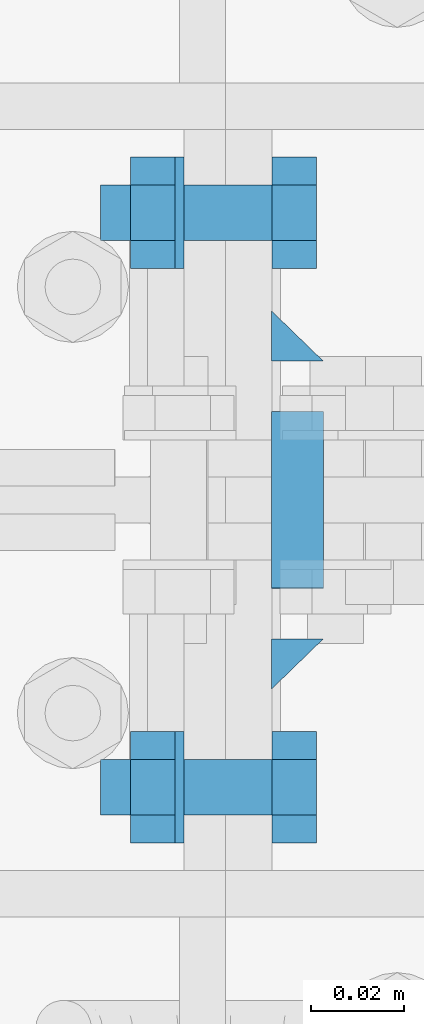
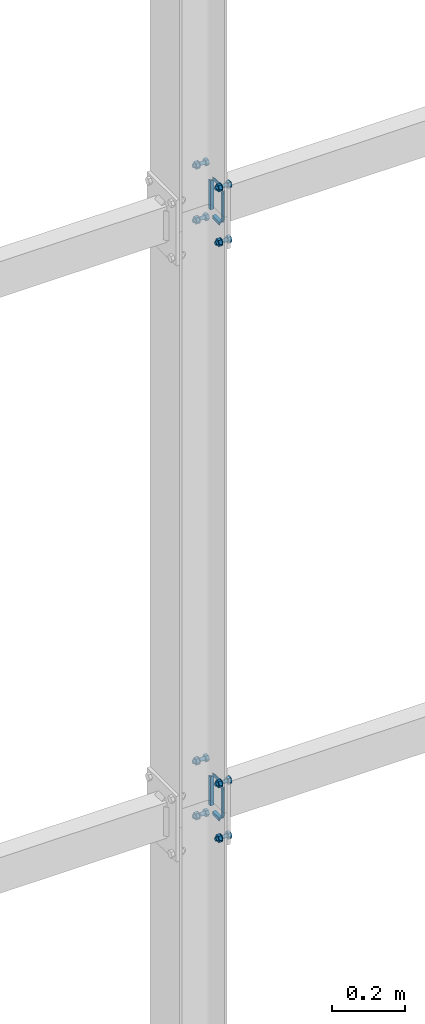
# One storey, part 201 of 251: 32 mechanical fasteners, 16 fasteners.
"""IFC4 building model written with IfcOpenShell, lengths in metres."""

from ifc_helpers import new_model, si_unit, frame, origin_with_axes, place, context, project, spatial, polyline, outline, extrude, type_object, element, save


model = new_model("IFC4")

# Units and contexts
model_context = context("Model", 3, precision=1e-05, world=origin_with_axes())
ifc_project = project(units=[si_unit("LENGTHUNIT", "METRE"), si_unit("AREAUNIT", "SQUARE_METRE"), si_unit("VOLUMEUNIT", "CUBIC_METRE"), si_unit("MASSUNIT", "GRAM", prefix="KILO"), si_unit("TIMEUNIT", "SECOND"), si_unit("PLANEANGLEUNIT", "RADIAN"), si_unit("SOLIDANGLEUNIT", "STERADIAN"), si_unit("THERMODYNAMICTEMPERATUREUNIT", "DEGREE_CELSIUS")], contexts=[model_context])

# Site, building, storey
placement_1 = place(None, origin_with_axes())
site = spatial("IfcSite", under=ifc_project, at=placement_1, Name="Italia", CompositionType="ELEMENT")
building = spatial("IfcBuilding", under=site, at=placement_1, Name="Deposito", CompositionType="ELEMENT")
storey = spatial("IfcBuildingStorey", under=building, at=placement_1, Name="Storey 0", CompositionType="ELEMENT", Elevation=0.0)

# Fasteners
fastener_type_1 = type_object("IfcFastenerType", Name="Collegamenti -006_-005 -006_-007 -007_-006 -007_-008 -014_-013 -014_-015 -015_-014 -015_-016", PredefinedType="WELD")
placement_2 = place(placement_1, origin_with_axes())
fastener_1_placement = place(placement_2, origin_with_axes())
element("IfcFastener", 1, at=fastener_1_placement, inside=storey, type_object=fastener_type_1, Name="Collegamenti -006_-005 -006_-007 -007_-006 -007_-008 -014_-013 -014_-015 -015_-014 -015_-016", context=model_context, shape_type="SweptSolid", body=[
    extrude(outline(polyline([(0.0, 0.0), (0.0111732, -0.0108382), (0.0, -0.0108382), (0.0, 0.0)])), frame((11.0009, 20.0191, 1.07079), z_axis=(0.0, -1.0, 0.0), x_axis=(1.0, 0.0, 0.0)), (0.0, 0.0, 1.0), 0.0381012),
])
fastener_type_2 = type_object("IfcFastenerType", Name="Collegamenti -006_-005 -006_-007 -007_-006 -007_-008 -014_-013 -014_-015 -015_-014 -015_-016", PredefinedType="WELD")
fastener_2_placement = place(placement_2, origin_with_axes())
element("IfcFastener", 2, at=fastener_2_placement, inside=storey, type_object=fastener_type_2, Name="Collegamenti -006_-005 -006_-007 -007_-006 -007_-008 -014_-013 -014_-015 -015_-014 -015_-016", context=model_context, shape_type="SweptSolid", body=[
    extrude(outline(polyline([(0.0, 0.0), (0.0108376, 0.0111732), (0.0108376, 0.0), (0.0, 0.0)])), frame((11.0009, 19.9592, 1.04905), z_axis=(0.0, 0.0, -1.0), x_axis=(0.0, 1.0, 0.0)), (0.0, 0.0, 1.0), 0.0980999),
])
fastener_type_3 = type_object("IfcFastenerType", Name="Collegamenti -006_-005 -006_-007 -007_-006 -007_-008 -014_-013 -014_-015 -015_-014 -015_-016", PredefinedType="WELD")
fastener_3_placement = place(placement_2, origin_with_axes())
element("IfcFastener", 3, at=fastener_3_placement, inside=storey, type_object=fastener_type_3, Name="Collegamenti -006_-005 -006_-007 -007_-006 -007_-008 -014_-013 -014_-015 -015_-014 -015_-016", context=model_context, shape_type="SweptSolid", body=[
    extrude(outline(polyline([(0.0, 0.0), (-0.0108376, -0.0111732), (-0.0108376, 0.0), (0.0, 0.0)])), frame((11.0009, 20.0408, 0.95095), z_axis=(0.0, 0.0, 1.0), x_axis=(0.0, 1.0, 0.0)), (0.0, 0.0, 1.0), 0.0980999),
])
fastener_type_4 = type_object("IfcFastenerType", Name="Collegamenti -006_-005 -006_-007 -007_-006 -007_-008 -014_-013 -014_-015 -015_-014 -015_-016", PredefinedType="WELD")
fastener_4_placement = place(placement_2, origin_with_axes())
element("IfcFastener", 4, at=fastener_4_placement, inside=storey, type_object=fastener_type_4, Name="Collegamenti -006_-005 -006_-007 -007_-006 -007_-008 -014_-013 -014_-015 -015_-014 -015_-016", context=model_context, shape_type="SweptSolid", body=[
    extrude(outline(polyline([(0.0, 0.0), (-0.0111732, 0.0108382), (0.0, 0.0108382), (0.0, 0.0)])), frame((11.0009, 19.9809, 0.929212), z_axis=(0.0, 1.0, 0.0), x_axis=(-1.0, 0.0, 0.0)), (0.0, 0.0, 1.0), 0.0381012),
])
fastener_type_5 = type_object("IfcFastenerType", Name="Collegamenti -006_-005 -006_-007 -007_-006 -007_-008 -014_-013 -014_-015 -015_-014 -015_-016", PredefinedType="WELD")
fastener_5_placement = place(placement_2, origin_with_axes())
element("IfcFastener", 5, at=fastener_5_placement, inside=storey, type_object=fastener_type_5, Name="Collegamenti -006_-005 -006_-007 -007_-006 -007_-008 -014_-013 -014_-015 -015_-014 -015_-016", context=model_context, shape_type="SweptSolid", body=[
    extrude(outline(polyline([(0.0, 0.0), (0.0111732, -0.0108382), (0.0, -0.0108382), (0.0, 0.0)])), frame((11.0009, 20.0191, 1.07079), z_axis=(0.0, -1.0, 0.0), x_axis=(1.0, 0.0, 0.0)), (0.0, 0.0, 1.0), 0.0381012),
])
fastener_type_6 = type_object("IfcFastenerType", Name="Collegamenti -006_-005 -006_-007 -007_-006 -007_-008 -014_-013 -014_-015 -015_-014 -015_-016", PredefinedType="WELD")
fastener_6_placement = place(placement_2, origin_with_axes())
element("IfcFastener", 6, at=fastener_6_placement, inside=storey, type_object=fastener_type_6, Name="Collegamenti -006_-005 -006_-007 -007_-006 -007_-008 -014_-013 -014_-015 -015_-014 -015_-016", context=model_context, shape_type="SweptSolid", body=[
    extrude(outline(polyline([(0.0, 0.0), (0.0108376, 0.0111732), (0.0108376, 0.0), (0.0, 0.0)])), frame((11.0009, 19.9592, 1.04905), z_axis=(0.0, 0.0, -1.0), x_axis=(0.0, 1.0, 0.0)), (0.0, 0.0, 1.0), 0.0980999),
])
fastener_type_7 = type_object("IfcFastenerType", Name="Collegamenti -006_-005 -006_-007 -007_-006 -007_-008 -014_-013 -014_-015 -015_-014 -015_-016", PredefinedType="WELD")
fastener_7_placement = place(placement_2, origin_with_axes())
element("IfcFastener", 7, at=fastener_7_placement, inside=storey, type_object=fastener_type_7, Name="Collegamenti -006_-005 -006_-007 -007_-006 -007_-008 -014_-013 -014_-015 -015_-014 -015_-016", context=model_context, shape_type="SweptSolid", body=[
    extrude(outline(polyline([(0.0, 0.0), (-0.0108376, -0.0111732), (-0.0108376, 0.0), (0.0, 0.0)])), frame((11.0009, 20.0408, 0.95095), z_axis=(0.0, 0.0, 1.0), x_axis=(0.0, 1.0, 0.0)), (0.0, 0.0, 1.0), 0.0980999),
])
fastener_type_8 = type_object("IfcFastenerType", Name="Collegamenti -006_-005 -006_-007 -007_-006 -007_-008 -014_-013 -014_-015 -015_-014 -015_-016", PredefinedType="WELD")
fastener_8_placement = place(placement_2, origin_with_axes())
element("IfcFastener", 8, at=fastener_8_placement, inside=storey, type_object=fastener_type_8, Name="Collegamenti -006_-005 -006_-007 -007_-006 -007_-008 -014_-013 -014_-015 -015_-014 -015_-016", context=model_context, shape_type="SweptSolid", body=[
    extrude(outline(polyline([(0.0, 0.0), (-0.0111732, 0.0108382), (0.0, 0.0108382), (0.0, 0.0)])), frame((11.0009, 19.9809, 0.929212), z_axis=(0.0, 1.0, 0.0), x_axis=(-1.0, 0.0, 0.0)), (0.0, 0.0, 1.0), 0.0381012),
])

# Mechanical fasteners
mechanical_fastener_type_1 = type_object("IfcMechanicalFastenerType", Name="Collegamenti -006_-005 -006_-007 -007_-006 -007_-008 -014_-013 -014_-015 -015_-014 -015_-016", PredefinedType="BOLT")
mechanical_fastener_1_placement = place(placement_2, origin_with_axes())
element("IfcMechanicalFastener", 9, at=mechanical_fastener_1_placement, inside=storey, type_object=mechanical_fastener_type_1, Name="Collegamenti -006_-005 -006_-007 -007_-006 -007_-008 -014_-013 -014_-015 -015_-014 -015_-016", NominalDiameter=0.0119993, context=model_context, shape_type="SweptSolid", body=[
    extrude(outline(polyline([(0.0, 0.0), (-0.012001, 0.0), (-0.0179996, 0.0103923), (-0.012001, 0.0207846), (0.0, 0.0207846), (0.00600052, 0.0103923), (0.0, 0.0)])), frame((11.001, 19.944, 0.897608), z_axis=(1.0, 0.0, 0.0), x_axis=(0.0, 1.0, 0.0)), (0.0, 0.0, 1.0), 0.00959969),
])
mechanical_fastener_type_2 = type_object("IfcMechanicalFastenerType", Name="Collegamenti -006_-005 -006_-007 -007_-006 -007_-008 -014_-013 -014_-015 -015_-014 -015_-016", PredefinedType="BOLT")
mechanical_fastener_2_placement = place(placement_2, origin_with_axes())
element("IfcMechanicalFastener", 10, at=mechanical_fastener_2_placement, inside=storey, type_object=mechanical_fastener_type_2, Name="Collegamenti -006_-005 -006_-007 -007_-006 -007_-008 -014_-013 -014_-015 -015_-014 -015_-016", NominalDiameter=0.012, context=model_context, shape_type="SweptSolid", body=[
    extrude(outline(polyline([(0.0, 0.0), (-0.000204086, -0.00155294), (-0.000804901, -0.00300002), (-0.00175858, -0.00424266), (-0.00300026, -0.00519615), (-0.00444794, -0.00579554), (-0.00600052, -0.00599998), (-0.0075531, -0.00579554), (-0.00900078, -0.00519615), (-0.0102425, -0.00424266), (-0.0111961, -0.00300002), (-0.011797, -0.00155294), (-0.012001, 0.0), (-0.011797, 0.00155294), (-0.0111961, 0.00300002), (-0.0102425, 0.00424266), (-0.00900078, 0.00519615), (-0.0075531, 0.00579554), (-0.00600052, 0.00599998), (-0.00444794, 0.00579554), (-0.00300026, 0.00519615), (-0.00175858, 0.00424266), (-0.000804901, 0.00300002), (-0.000204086, 0.00155294), (0.0, 0.0)])), frame((10.964, 19.944, 0.908), z_axis=(1.0, 0.0, 0.0), x_axis=(0.0, 1.0, 0.0)), (0.0, 0.0, 1.0), 0.0370007),
])
mechanical_fastener_type_3 = type_object("IfcMechanicalFastenerType", Name="Collegamenti -006_-005 -006_-007 -007_-006 -007_-008 -014_-013 -014_-015 -015_-014 -015_-016", PredefinedType="BOLT")
mechanical_fastener_3_placement = place(placement_2, origin_with_axes())
element("IfcMechanicalFastener", 11, at=mechanical_fastener_3_placement, inside=storey, type_object=mechanical_fastener_type_3, Name="Collegamenti -006_-005 -006_-007 -007_-006 -007_-008 -014_-013 -014_-015 -015_-014 -015_-016", NominalDiameter=0.0119993, context=model_context, shape_type="SweptSolid", body=[
    extrude(outline(polyline([(0.0, 0.0), (-0.012001, 0.0), (-0.0179996, 0.0103923), (-0.012001, 0.0207846), (0.0, 0.0207846), (0.00600052, 0.0103923), (0.0, 0.0)])), frame((10.9704, 19.944, 0.897608), z_axis=(1.0, 0.0, 0.0), x_axis=(0.0, 1.0, 0.0)), (0.0, 0.0, 1.0), 0.00960064),
])
mechanical_fastener_type_4 = type_object("IfcMechanicalFastenerType", Name="Collegamenti -006_-005 -006_-007 -007_-006 -007_-008 -014_-013 -014_-015 -015_-014 -015_-016", PredefinedType="BOLT")
mechanical_fastener_4_placement = place(placement_2, origin_with_axes())
element("IfcMechanicalFastener", 12, at=mechanical_fastener_4_placement, inside=storey, type_object=mechanical_fastener_type_4, Name="Collegamenti -006_-005 -006_-007 -007_-006 -007_-008 -014_-013 -014_-015 -015_-014 -015_-016", NominalDiameter=0.024, context=model_context, shape_type="SweptSolid", body=[
    extrude(outline(polyline([(0.0, 0.0), (-0.000408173, -0.00310582), (-0.00160599, -0.00599998), (-0.00351334, -0.00848526), (-0.00599861, -0.0103923), (-0.00889397, -0.0115911), (-0.0119991, -0.012), (-0.0151043, -0.0115911), (-0.0179996, -0.0103923), (-0.0204849, -0.00848526), (-0.0223923, -0.00599998), (-0.0235901, -0.00310582), (-0.0239983, 0.0), (-0.0235901, 0.00310582), (-0.0223923, 0.00599998), (-0.0204849, 0.00848526), (-0.0179996, 0.0103923), (-0.0151043, 0.0115911), (-0.0119991, 0.012), (-0.00889397, 0.0115911), (-0.00599861, 0.0103923), (-0.00351334, 0.00848526), (-0.00160599, 0.00599998), (-0.000408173, 0.00310582), (0.0, 0.0)])), frame((10.98, 19.95, 0.908), z_axis=(1.0, 0.0, 0.0), x_axis=(0.0, 1.0, 0.0)), (0.0, 0.0, 1.0), 0.00199986),
])
mechanical_fastener_type_5 = type_object("IfcMechanicalFastenerType", Name="Collegamenti -006_-005 -006_-007 -007_-006 -007_-008 -014_-013 -014_-015 -015_-014 -015_-016", PredefinedType="BOLT")
mechanical_fastener_5_placement = place(placement_2, origin_with_axes())
element("IfcMechanicalFastener", 13, at=mechanical_fastener_5_placement, inside=storey, type_object=mechanical_fastener_type_5, Name="Collegamenti -006_-005 -006_-007 -007_-006 -007_-008 -014_-013 -014_-015 -015_-014 -015_-016", NominalDiameter=0.0119993, context=model_context, shape_type="SweptSolid", body=[
    extrude(outline(polyline([(0.0, 0.0), (-0.012001, 0.0), (-0.0180016, 0.0103923), (-0.012001, 0.0207846), (0.0, 0.0207846), (0.00599861, 0.0103923), (0.0, 0.0)])), frame((11.001, 20.068, 0.897608), z_axis=(1.0, 0.0, 0.0), x_axis=(0.0, 1.0, 0.0)), (0.0, 0.0, 1.0), 0.00959969),
])
mechanical_fastener_type_6 = type_object("IfcMechanicalFastenerType", Name="Collegamenti -006_-005 -006_-007 -007_-006 -007_-008 -014_-013 -014_-015 -015_-014 -015_-016", PredefinedType="BOLT")
mechanical_fastener_6_placement = place(placement_2, origin_with_axes())
element("IfcMechanicalFastener", 14, at=mechanical_fastener_6_placement, inside=storey, type_object=mechanical_fastener_type_6, Name="Collegamenti -006_-005 -006_-007 -007_-006 -007_-008 -014_-013 -014_-015 -015_-014 -015_-016", NominalDiameter=0.012, context=model_context, shape_type="SweptSolid", body=[
    extrude(outline(polyline([(0.0, 0.0), (-0.000204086, -0.00155294), (-0.000804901, -0.00300002), (-0.00175858, -0.00424266), (-0.00300026, -0.00519615), (-0.00444794, -0.00579554), (-0.00600052, -0.00599998), (-0.0075531, -0.00579554), (-0.00900078, -0.00519615), (-0.0102425, -0.00424266), (-0.0111961, -0.00300002), (-0.011797, -0.00155294), (-0.012001, 0.0), (-0.011797, 0.00155294), (-0.0111961, 0.00300002), (-0.0102425, 0.00424266), (-0.00900078, 0.00519615), (-0.0075531, 0.00579554), (-0.00600052, 0.00599998), (-0.00444794, 0.00579554), (-0.00300026, 0.00519615), (-0.00175858, 0.00424266), (-0.000804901, 0.00300002), (-0.000204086, 0.00155294), (0.0, 0.0)])), frame((10.964, 20.068, 0.908), z_axis=(1.0, 0.0, 0.0), x_axis=(0.0, 1.0, 0.0)), (0.0, 0.0, 1.0), 0.0370007),
])
mechanical_fastener_type_7 = type_object("IfcMechanicalFastenerType", Name="Collegamenti -006_-005 -006_-007 -007_-006 -007_-008 -014_-013 -014_-015 -015_-014 -015_-016", PredefinedType="BOLT")
mechanical_fastener_7_placement = place(placement_2, origin_with_axes())
element("IfcMechanicalFastener", 15, at=mechanical_fastener_7_placement, inside=storey, type_object=mechanical_fastener_type_7, Name="Collegamenti -006_-005 -006_-007 -007_-006 -007_-008 -014_-013 -014_-015 -015_-014 -015_-016", NominalDiameter=0.0119993, context=model_context, shape_type="SweptSolid", body=[
    extrude(outline(polyline([(0.0, 0.0), (-0.012001, 0.0), (-0.0180016, 0.0103923), (-0.012001, 0.0207846), (0.0, 0.0207846), (0.00599861, 0.0103923), (0.0, 0.0)])), frame((10.9704, 20.068, 0.897608), z_axis=(1.0, 0.0, 0.0), x_axis=(0.0, 1.0, 0.0)), (0.0, 0.0, 1.0), 0.00960064),
])
mechanical_fastener_type_8 = type_object("IfcMechanicalFastenerType", Name="Collegamenti -006_-005 -006_-007 -007_-006 -007_-008 -014_-013 -014_-015 -015_-014 -015_-016", PredefinedType="BOLT")
mechanical_fastener_8_placement = place(placement_2, origin_with_axes())
element("IfcMechanicalFastener", 16, at=mechanical_fastener_8_placement, inside=storey, type_object=mechanical_fastener_type_8, Name="Collegamenti -006_-005 -006_-007 -007_-006 -007_-008 -014_-013 -014_-015 -015_-014 -015_-016", NominalDiameter=0.024, context=model_context, shape_type="SweptSolid", body=[
    extrude(outline(polyline([(0.0, 0.0), (-0.000408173, -0.00310582), (-0.00160599, -0.00599998), (-0.00351334, -0.00848526), (-0.00599861, -0.0103923), (-0.00889397, -0.0115911), (-0.0119991, -0.012), (-0.0151043, -0.0115911), (-0.0179996, -0.0103923), (-0.0204849, -0.00848526), (-0.0223923, -0.00599998), (-0.0235901, -0.00310582), (-0.0239983, 0.0), (-0.0235901, 0.00310582), (-0.0223923, 0.00599998), (-0.0204849, 0.00848526), (-0.0179996, 0.0103923), (-0.0151043, 0.0115911), (-0.0119991, 0.012), (-0.00889397, 0.0115911), (-0.00599861, 0.0103923), (-0.00351334, 0.00848526), (-0.00160599, 0.00599998), (-0.000408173, 0.00310582), (0.0, 0.0)])), frame((10.98, 20.074, 0.908), z_axis=(1.0, 0.0, 0.0), x_axis=(0.0, 1.0, 0.0)), (0.0, 0.0, 1.0), 0.00199986),
])
mechanical_fastener_type_9 = type_object("IfcMechanicalFastenerType", Name="Collegamenti -006_-005 -006_-007 -007_-006 -007_-008 -014_-013 -014_-015 -015_-014 -015_-016", PredefinedType="BOLT")
mechanical_fastener_9_placement = place(placement_2, origin_with_axes())
element("IfcMechanicalFastener", 17, at=mechanical_fastener_9_placement, inside=storey, type_object=mechanical_fastener_type_9, Name="Collegamenti -006_-005 -006_-007 -007_-006 -007_-008 -014_-013 -014_-015 -015_-014 -015_-016", NominalDiameter=0.0119993, context=model_context, shape_type="SweptSolid", body=[
    extrude(outline(polyline([(0.0, 0.0), (-0.012001, 0.0), (-0.0179996, 0.0103923), (-0.012001, 0.0207846), (0.0, 0.0207846), (0.00600052, 0.0103923), (0.0, 0.0)])), frame((11.001, 19.944, 1.08161), z_axis=(1.0, 0.0, 0.0), x_axis=(0.0, 1.0, 0.0)), (0.0, 0.0, 1.0), 0.00959969),
])
mechanical_fastener_type_10 = type_object("IfcMechanicalFastenerType", Name="Collegamenti -006_-005 -006_-007 -007_-006 -007_-008 -014_-013 -014_-015 -015_-014 -015_-016", PredefinedType="BOLT")
mechanical_fastener_10_placement = place(placement_2, origin_with_axes())
element("IfcMechanicalFastener", 18, at=mechanical_fastener_10_placement, inside=storey, type_object=mechanical_fastener_type_10, Name="Collegamenti -006_-005 -006_-007 -007_-006 -007_-008 -014_-013 -014_-015 -015_-014 -015_-016", NominalDiameter=0.012, context=model_context, shape_type="SweptSolid", body=[
    extrude(outline(polyline([(0.0, 0.0), (-0.000204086, -0.00155294), (-0.000804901, -0.00300002), (-0.00175858, -0.00424266), (-0.00300026, -0.00519609), (-0.00444794, -0.0057956), (-0.00600052, -0.00600004), (-0.0075531, -0.0057956), (-0.00900078, -0.00519609), (-0.0102425, -0.00424266), (-0.0111961, -0.00300002), (-0.011797, -0.00155294), (-0.012001, 0.0), (-0.011797, 0.00155294), (-0.0111961, 0.00300002), (-0.0102425, 0.00424266), (-0.00900078, 0.00519609), (-0.0075531, 0.0057956), (-0.00600052, 0.00600004), (-0.00444794, 0.0057956), (-0.00300026, 0.00519609), (-0.00175858, 0.00424266), (-0.000804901, 0.00300002), (-0.000204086, 0.00155294), (0.0, 0.0)])), frame((10.964, 19.944, 1.092), z_axis=(1.0, 0.0, 0.0), x_axis=(0.0, 1.0, 0.0)), (0.0, 0.0, 1.0), 0.0370007),
])
mechanical_fastener_type_11 = type_object("IfcMechanicalFastenerType", Name="Collegamenti -006_-005 -006_-007 -007_-006 -007_-008 -014_-013 -014_-015 -015_-014 -015_-016", PredefinedType="BOLT")
mechanical_fastener_11_placement = place(placement_2, origin_with_axes())
element("IfcMechanicalFastener", 19, at=mechanical_fastener_11_placement, inside=storey, type_object=mechanical_fastener_type_11, Name="Collegamenti -006_-005 -006_-007 -007_-006 -007_-008 -014_-013 -014_-015 -015_-014 -015_-016", NominalDiameter=0.0119993, context=model_context, shape_type="SweptSolid", body=[
    extrude(outline(polyline([(0.0, 0.0), (-0.012001, 0.0), (-0.0179996, 0.0103923), (-0.012001, 0.0207846), (0.0, 0.0207846), (0.00600052, 0.0103923), (0.0, 0.0)])), frame((10.9704, 19.944, 1.08161), z_axis=(1.0, 0.0, 0.0), x_axis=(0.0, 1.0, 0.0)), (0.0, 0.0, 1.0), 0.00960064),
])
mechanical_fastener_type_12 = type_object("IfcMechanicalFastenerType", Name="Collegamenti -006_-005 -006_-007 -007_-006 -007_-008 -014_-013 -014_-015 -015_-014 -015_-016", PredefinedType="BOLT")
mechanical_fastener_12_placement = place(placement_2, origin_with_axes())
element("IfcMechanicalFastener", 20, at=mechanical_fastener_12_placement, inside=storey, type_object=mechanical_fastener_type_12, Name="Collegamenti -006_-005 -006_-007 -007_-006 -007_-008 -014_-013 -014_-015 -015_-014 -015_-016", NominalDiameter=0.024, context=model_context, shape_type="SweptSolid", body=[
    extrude(outline(polyline([(0.0, 0.0), (-0.000408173, -0.00310588), (-0.00160599, -0.00600004), (-0.00351334, -0.00848532), (-0.00599861, -0.0103923), (-0.00889397, -0.0115911), (-0.0119991, -0.012), (-0.0151043, -0.0115911), (-0.0179996, -0.0103923), (-0.0204849, -0.00848532), (-0.0223923, -0.00600004), (-0.0235901, -0.00310588), (-0.0239983, 0.0), (-0.0235901, 0.00310588), (-0.0223923, 0.00600004), (-0.0204849, 0.00848532), (-0.0179996, 0.0103923), (-0.0151043, 0.0115911), (-0.0119991, 0.012), (-0.00889397, 0.0115911), (-0.00599861, 0.0103923), (-0.00351334, 0.00848532), (-0.00160599, 0.00600004), (-0.000408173, 0.00310588), (0.0, 0.0)])), frame((10.98, 19.95, 1.092), z_axis=(1.0, 0.0, 0.0), x_axis=(0.0, 1.0, 0.0)), (0.0, 0.0, 1.0), 0.00199986),
])
mechanical_fastener_type_13 = type_object("IfcMechanicalFastenerType", Name="Collegamenti -006_-005 -006_-007 -007_-006 -007_-008 -014_-013 -014_-015 -015_-014 -015_-016", PredefinedType="BOLT")
mechanical_fastener_13_placement = place(placement_2, origin_with_axes())
element("IfcMechanicalFastener", 21, at=mechanical_fastener_13_placement, inside=storey, type_object=mechanical_fastener_type_13, Name="Collegamenti -006_-005 -006_-007 -007_-006 -007_-008 -014_-013 -014_-015 -015_-014 -015_-016", NominalDiameter=0.0119993, context=model_context, shape_type="SweptSolid", body=[
    extrude(outline(polyline([(0.0, 0.0), (-0.012001, 0.0), (-0.0180016, 0.0103923), (-0.012001, 0.0207846), (0.0, 0.0207846), (0.00599861, 0.0103923), (0.0, 0.0)])), frame((11.001, 20.068, 1.08161), z_axis=(1.0, 0.0, 0.0), x_axis=(0.0, 1.0, 0.0)), (0.0, 0.0, 1.0), 0.00959969),
])
mechanical_fastener_type_14 = type_object("IfcMechanicalFastenerType", Name="Collegamenti -006_-005 -006_-007 -007_-006 -007_-008 -014_-013 -014_-015 -015_-014 -015_-016", PredefinedType="BOLT")
mechanical_fastener_14_placement = place(placement_2, origin_with_axes())
element("IfcMechanicalFastener", 22, at=mechanical_fastener_14_placement, inside=storey, type_object=mechanical_fastener_type_14, Name="Collegamenti -006_-005 -006_-007 -007_-006 -007_-008 -014_-013 -014_-015 -015_-014 -015_-016", NominalDiameter=0.012, context=model_context, shape_type="SweptSolid", body=[
    extrude(outline(polyline([(0.0, 0.0), (-0.000204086, -0.00155294), (-0.000804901, -0.00300002), (-0.00175858, -0.00424266), (-0.00300026, -0.00519609), (-0.00444794, -0.0057956), (-0.00600052, -0.00600004), (-0.0075531, -0.0057956), (-0.00900078, -0.00519609), (-0.0102425, -0.00424266), (-0.0111961, -0.00300002), (-0.011797, -0.00155294), (-0.012001, 0.0), (-0.011797, 0.00155294), (-0.0111961, 0.00300002), (-0.0102425, 0.00424266), (-0.00900078, 0.00519609), (-0.0075531, 0.0057956), (-0.00600052, 0.00600004), (-0.00444794, 0.0057956), (-0.00300026, 0.00519609), (-0.00175858, 0.00424266), (-0.000804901, 0.00300002), (-0.000204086, 0.00155294), (0.0, 0.0)])), frame((10.964, 20.068, 1.092), z_axis=(1.0, 0.0, 0.0), x_axis=(0.0, 1.0, 0.0)), (0.0, 0.0, 1.0), 0.0370007),
])
mechanical_fastener_type_15 = type_object("IfcMechanicalFastenerType", Name="Collegamenti -006_-005 -006_-007 -007_-006 -007_-008 -014_-013 -014_-015 -015_-014 -015_-016", PredefinedType="BOLT")
mechanical_fastener_15_placement = place(placement_2, origin_with_axes())
element("IfcMechanicalFastener", 23, at=mechanical_fastener_15_placement, inside=storey, type_object=mechanical_fastener_type_15, Name="Collegamenti -006_-005 -006_-007 -007_-006 -007_-008 -014_-013 -014_-015 -015_-014 -015_-016", NominalDiameter=0.0119993, context=model_context, shape_type="SweptSolid", body=[
    extrude(outline(polyline([(0.0, 0.0), (-0.012001, 0.0), (-0.0180016, 0.0103923), (-0.012001, 0.0207846), (0.0, 0.0207846), (0.00599861, 0.0103923), (0.0, 0.0)])), frame((10.9704, 20.068, 1.08161), z_axis=(1.0, 0.0, 0.0), x_axis=(0.0, 1.0, 0.0)), (0.0, 0.0, 1.0), 0.00960064),
])
mechanical_fastener_type_16 = type_object("IfcMechanicalFastenerType", Name="Collegamenti -006_-005 -006_-007 -007_-006 -007_-008 -014_-013 -014_-015 -015_-014 -015_-016", PredefinedType="BOLT")
mechanical_fastener_16_placement = place(placement_2, origin_with_axes())
element("IfcMechanicalFastener", 24, at=mechanical_fastener_16_placement, inside=storey, type_object=mechanical_fastener_type_16, Name="Collegamenti -006_-005 -006_-007 -007_-006 -007_-008 -014_-013 -014_-015 -015_-014 -015_-016", NominalDiameter=0.024, context=model_context, shape_type="SweptSolid", body=[
    extrude(outline(polyline([(0.0, 0.0), (-0.000408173, -0.00310588), (-0.00160599, -0.00600004), (-0.00351334, -0.00848532), (-0.00599861, -0.0103923), (-0.00889397, -0.0115911), (-0.0119991, -0.012), (-0.0151043, -0.0115911), (-0.0179996, -0.0103923), (-0.0204849, -0.00848532), (-0.0223923, -0.00600004), (-0.0235901, -0.00310588), (-0.0239983, 0.0), (-0.0235901, 0.00310588), (-0.0223923, 0.00600004), (-0.0204849, 0.00848532), (-0.0179996, 0.0103923), (-0.0151043, 0.0115911), (-0.0119991, 0.012), (-0.00889397, 0.0115911), (-0.00599861, 0.0103923), (-0.00351334, 0.00848532), (-0.00160599, 0.00600004), (-0.000408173, 0.00310588), (0.0, 0.0)])), frame((10.98, 20.074, 1.092), z_axis=(1.0, 0.0, 0.0), x_axis=(0.0, 1.0, 0.0)), (0.0, 0.0, 1.0), 0.00199986),
])

# Fasteners
fastener_type_9 = type_object("IfcFastenerType", Name="Collegamenti -006_-005 -006_-007 -007_-006 -007_-008 -014_-013 -014_-015 -015_-014 -015_-016", PredefinedType="WELD")
fastener_9_placement = place(placement_2, origin_with_axes())
element("IfcFastener", 25, at=fastener_9_placement, inside=storey, type_object=fastener_type_9, Name="Collegamenti -006_-005 -006_-007 -007_-006 -007_-008 -014_-013 -014_-015 -015_-014 -015_-016", context=model_context, shape_type="SweptSolid", body=[
    extrude(outline(polyline([(0.0, 0.0), (0.0111732, -0.0108383), (0.0, -0.0108383), (0.0, 0.0)])), frame((11.0009, 20.0191, 3.07079), z_axis=(0.0, -1.0, 0.0), x_axis=(1.0, 0.0, 0.0)), (0.0, 0.0, 1.0), 0.0381012),
])
fastener_type_10 = type_object("IfcFastenerType", Name="Collegamenti -006_-005 -006_-007 -007_-006 -007_-008 -014_-013 -014_-015 -015_-014 -015_-016", PredefinedType="WELD")
fastener_10_placement = place(placement_2, origin_with_axes())
element("IfcFastener", 26, at=fastener_10_placement, inside=storey, type_object=fastener_type_10, Name="Collegamenti -006_-005 -006_-007 -007_-006 -007_-008 -014_-013 -014_-015 -015_-014 -015_-016", context=model_context, shape_type="SweptSolid", body=[
    extrude(outline(polyline([(0.0, 0.0), (0.0108376, 0.0111732), (0.0108376, 0.0), (0.0, 0.0)])), frame((11.0009, 19.9592, 3.04905), z_axis=(0.0, 0.0, -1.0), x_axis=(0.0, 1.0, 0.0)), (0.0, 0.0, 1.0), 0.0980997),
])
fastener_type_11 = type_object("IfcFastenerType", Name="Collegamenti -006_-005 -006_-007 -007_-006 -007_-008 -014_-013 -014_-015 -015_-014 -015_-016", PredefinedType="WELD")
fastener_11_placement = place(placement_2, origin_with_axes())
element("IfcFastener", 27, at=fastener_11_placement, inside=storey, type_object=fastener_type_11, Name="Collegamenti -006_-005 -006_-007 -007_-006 -007_-008 -014_-013 -014_-015 -015_-014 -015_-016", context=model_context, shape_type="SweptSolid", body=[
    extrude(outline(polyline([(0.0, 0.0), (-0.0108376, -0.0111732), (-0.0108376, 0.0), (0.0, 0.0)])), frame((11.0009, 20.0408, 2.95095), z_axis=(0.0, 0.0, 1.0), x_axis=(0.0, 1.0, 0.0)), (0.0, 0.0, 1.0), 0.0980997),
])
fastener_type_12 = type_object("IfcFastenerType", Name="Collegamenti -006_-005 -006_-007 -007_-006 -007_-008 -014_-013 -014_-015 -015_-014 -015_-016", PredefinedType="WELD")
fastener_12_placement = place(placement_2, origin_with_axes())
element("IfcFastener", 28, at=fastener_12_placement, inside=storey, type_object=fastener_type_12, Name="Collegamenti -006_-005 -006_-007 -007_-006 -007_-008 -014_-013 -014_-015 -015_-014 -015_-016", context=model_context, shape_type="SweptSolid", body=[
    extrude(outline(polyline([(0.0, 0.0), (-0.0111732, 0.0108383), (0.0, 0.0108383), (0.0, 0.0)])), frame((11.0009, 19.9809, 2.92921), z_axis=(0.0, 1.0, 0.0), x_axis=(-1.0, 0.0, 0.0)), (0.0, 0.0, 1.0), 0.0381012),
])
fastener_type_13 = type_object("IfcFastenerType", Name="Collegamenti -006_-005 -006_-007 -007_-006 -007_-008 -014_-013 -014_-015 -015_-014 -015_-016", PredefinedType="WELD")
fastener_13_placement = place(placement_2, origin_with_axes())
element("IfcFastener", 29, at=fastener_13_placement, inside=storey, type_object=fastener_type_13, Name="Collegamenti -006_-005 -006_-007 -007_-006 -007_-008 -014_-013 -014_-015 -015_-014 -015_-016", context=model_context, shape_type="SweptSolid", body=[
    extrude(outline(polyline([(0.0, 0.0), (0.0111732, -0.0108383), (0.0, -0.0108383), (0.0, 0.0)])), frame((11.0009, 20.0191, 3.07079), z_axis=(0.0, -1.0, 0.0), x_axis=(1.0, 0.0, 0.0)), (0.0, 0.0, 1.0), 0.0381012),
])
fastener_type_14 = type_object("IfcFastenerType", Name="Collegamenti -006_-005 -006_-007 -007_-006 -007_-008 -014_-013 -014_-015 -015_-014 -015_-016", PredefinedType="WELD")
fastener_14_placement = place(placement_2, origin_with_axes())
element("IfcFastener", 30, at=fastener_14_placement, inside=storey, type_object=fastener_type_14, Name="Collegamenti -006_-005 -006_-007 -007_-006 -007_-008 -014_-013 -014_-015 -015_-014 -015_-016", context=model_context, shape_type="SweptSolid", body=[
    extrude(outline(polyline([(0.0, 0.0), (0.0108376, 0.0111732), (0.0108376, 0.0), (0.0, 0.0)])), frame((11.0009, 19.9592, 3.04905), z_axis=(0.0, 0.0, -1.0), x_axis=(0.0, 1.0, 0.0)), (0.0, 0.0, 1.0), 0.0980997),
])
fastener_type_15 = type_object("IfcFastenerType", Name="Collegamenti -006_-005 -006_-007 -007_-006 -007_-008 -014_-013 -014_-015 -015_-014 -015_-016", PredefinedType="WELD")
fastener_15_placement = place(placement_2, origin_with_axes())
element("IfcFastener", 31, at=fastener_15_placement, inside=storey, type_object=fastener_type_15, Name="Collegamenti -006_-005 -006_-007 -007_-006 -007_-008 -014_-013 -014_-015 -015_-014 -015_-016", context=model_context, shape_type="SweptSolid", body=[
    extrude(outline(polyline([(0.0, 0.0), (-0.0108376, -0.0111732), (-0.0108376, 0.0), (0.0, 0.0)])), frame((11.0009, 20.0408, 2.95095), z_axis=(0.0, 0.0, 1.0), x_axis=(0.0, 1.0, 0.0)), (0.0, 0.0, 1.0), 0.0980997),
])
fastener_type_16 = type_object("IfcFastenerType", Name="Collegamenti -006_-005 -006_-007 -007_-006 -007_-008 -014_-013 -014_-015 -015_-014 -015_-016", PredefinedType="WELD")
fastener_16_placement = place(placement_2, origin_with_axes())
element("IfcFastener", 32, at=fastener_16_placement, inside=storey, type_object=fastener_type_16, Name="Collegamenti -006_-005 -006_-007 -007_-006 -007_-008 -014_-013 -014_-015 -015_-014 -015_-016", context=model_context, shape_type="SweptSolid", body=[
    extrude(outline(polyline([(0.0, 0.0), (-0.0111732, 0.0108383), (0.0, 0.0108383), (0.0, 0.0)])), frame((11.0009, 19.9809, 2.92921), z_axis=(0.0, 1.0, 0.0), x_axis=(-1.0, 0.0, 0.0)), (0.0, 0.0, 1.0), 0.0381012),
])

# Mechanical fasteners
mechanical_fastener_type_17 = type_object("IfcMechanicalFastenerType", Name="Collegamenti -006_-005 -006_-007 -007_-006 -007_-008 -014_-013 -014_-015 -015_-014 -015_-016", PredefinedType="BOLT")
mechanical_fastener_17_placement = place(placement_2, origin_with_axes())
element("IfcMechanicalFastener", 33, at=mechanical_fastener_17_placement, inside=storey, type_object=mechanical_fastener_type_17, Name="Collegamenti -006_-005 -006_-007 -007_-006 -007_-008 -014_-013 -014_-015 -015_-014 -015_-016", NominalDiameter=0.0119992, context=model_context, shape_type="SweptSolid", body=[
    extrude(outline(polyline([(0.0, 0.0), (-0.012001, 0.0), (-0.0179996, 0.0103922), (-0.012001, 0.0207844), (0.0, 0.0207844), (0.00600052, 0.0103922), (0.0, 0.0)])), frame((11.001, 19.944, 2.89761), z_axis=(1.0, 0.0, 0.0), x_axis=(0.0, 1.0, 0.0)), (0.0, 0.0, 1.0), 0.00959969),
])
mechanical_fastener_type_18 = type_object("IfcMechanicalFastenerType", Name="Collegamenti -006_-005 -006_-007 -007_-006 -007_-008 -014_-013 -014_-015 -015_-014 -015_-016", PredefinedType="BOLT")
mechanical_fastener_18_placement = place(placement_2, origin_with_axes())
element("IfcMechanicalFastener", 34, at=mechanical_fastener_18_placement, inside=storey, type_object=mechanical_fastener_type_18, Name="Collegamenti -006_-005 -006_-007 -007_-006 -007_-008 -014_-013 -014_-015 -015_-014 -015_-016", NominalDiameter=0.012, context=model_context, shape_type="SweptSolid", body=[
    extrude(outline(polyline([(0.0, 0.0), (-0.000204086, -0.00155282), (-0.000804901, -0.00300002), (-0.00175858, -0.00424266), (-0.00300026, -0.00519609), (-0.00444794, -0.00579548), (-0.00600052, -0.00600004), (-0.0075531, -0.00579548), (-0.00900078, -0.00519609), (-0.0102425, -0.00424266), (-0.0111961, -0.00300002), (-0.011797, -0.00155282), (-0.012001, 0.0), (-0.011797, 0.00155282), (-0.0111961, 0.00300002), (-0.0102425, 0.00424266), (-0.00900078, 0.00519609), (-0.0075531, 0.00579548), (-0.00600052, 0.00600004), (-0.00444794, 0.00579548), (-0.00300026, 0.00519609), (-0.00175858, 0.00424266), (-0.000804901, 0.00300002), (-0.000204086, 0.00155282), (0.0, 0.0)])), frame((10.964, 19.944, 2.908), z_axis=(1.0, 0.0, 0.0), x_axis=(0.0, 1.0, 0.0)), (0.0, 0.0, 1.0), 0.0370007),
])
mechanical_fastener_type_19 = type_object("IfcMechanicalFastenerType", Name="Collegamenti -006_-005 -006_-007 -007_-006 -007_-008 -014_-013 -014_-015 -015_-014 -015_-016", PredefinedType="BOLT")
mechanical_fastener_19_placement = place(placement_2, origin_with_axes())
element("IfcMechanicalFastener", 35, at=mechanical_fastener_19_placement, inside=storey, type_object=mechanical_fastener_type_19, Name="Collegamenti -006_-005 -006_-007 -007_-006 -007_-008 -014_-013 -014_-015 -015_-014 -015_-016", NominalDiameter=0.0119992, context=model_context, shape_type="SweptSolid", body=[
    extrude(outline(polyline([(0.0, 0.0), (-0.012001, 0.0), (-0.0179996, 0.0103922), (-0.012001, 0.0207844), (0.0, 0.0207844), (0.00600052, 0.0103922), (0.0, 0.0)])), frame((10.9704, 19.944, 2.89761), z_axis=(1.0, 0.0, 0.0), x_axis=(0.0, 1.0, 0.0)), (0.0, 0.0, 1.0), 0.00960064),
])
mechanical_fastener_type_20 = type_object("IfcMechanicalFastenerType", Name="Collegamenti -006_-005 -006_-007 -007_-006 -007_-008 -014_-013 -014_-015 -015_-014 -015_-016", PredefinedType="BOLT")
mechanical_fastener_20_placement = place(placement_2, origin_with_axes())
element("IfcMechanicalFastener", 36, at=mechanical_fastener_20_placement, inside=storey, type_object=mechanical_fastener_type_20, Name="Collegamenti -006_-005 -006_-007 -007_-006 -007_-008 -014_-013 -014_-015 -015_-014 -015_-016", NominalDiameter=0.024, context=model_context, shape_type="SweptSolid", body=[
    extrude(outline(polyline([(0.0, 0.0), (-0.000408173, -0.00310588), (-0.00160599, -0.00600004), (-0.00351334, -0.00848532), (-0.00599861, -0.0103922), (-0.00889397, -0.0115912), (-0.0119991, -0.0120001), (-0.0151043, -0.0115912), (-0.0179996, -0.0103922), (-0.0204849, -0.00848532), (-0.0223923, -0.00600004), (-0.0235901, -0.00310588), (-0.0239983, 0.0), (-0.0235901, 0.00310588), (-0.0223923, 0.00600004), (-0.0204849, 0.00848532), (-0.0179996, 0.0103922), (-0.0151043, 0.0115912), (-0.0119991, 0.0120001), (-0.00889397, 0.0115912), (-0.00599861, 0.0103922), (-0.00351334, 0.00848532), (-0.00160599, 0.00600004), (-0.000408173, 0.00310588), (0.0, 0.0)])), frame((10.98, 19.95, 2.908), z_axis=(1.0, 0.0, 0.0), x_axis=(0.0, 1.0, 0.0)), (0.0, 0.0, 1.0), 0.00199986),
])
mechanical_fastener_type_21 = type_object("IfcMechanicalFastenerType", Name="Collegamenti -006_-005 -006_-007 -007_-006 -007_-008 -014_-013 -014_-015 -015_-014 -015_-016", PredefinedType="BOLT")
mechanical_fastener_21_placement = place(placement_2, origin_with_axes())
element("IfcMechanicalFastener", 37, at=mechanical_fastener_21_placement, inside=storey, type_object=mechanical_fastener_type_21, Name="Collegamenti -006_-005 -006_-007 -007_-006 -007_-008 -014_-013 -014_-015 -015_-014 -015_-016", NominalDiameter=0.0119992, context=model_context, shape_type="SweptSolid", body=[
    extrude(outline(polyline([(0.0, 0.0), (-0.012001, 0.0), (-0.0180016, 0.0103922), (-0.012001, 0.0207844), (0.0, 0.0207844), (0.00599861, 0.0103922), (0.0, 0.0)])), frame((11.001, 20.068, 2.89761), z_axis=(1.0, 0.0, 0.0), x_axis=(0.0, 1.0, 0.0)), (0.0, 0.0, 1.0), 0.00959969),
])
mechanical_fastener_type_22 = type_object("IfcMechanicalFastenerType", Name="Collegamenti -006_-005 -006_-007 -007_-006 -007_-008 -014_-013 -014_-015 -015_-014 -015_-016", PredefinedType="BOLT")
mechanical_fastener_22_placement = place(placement_2, origin_with_axes())
element("IfcMechanicalFastener", 38, at=mechanical_fastener_22_placement, inside=storey, type_object=mechanical_fastener_type_22, Name="Collegamenti -006_-005 -006_-007 -007_-006 -007_-008 -014_-013 -014_-015 -015_-014 -015_-016", NominalDiameter=0.012, context=model_context, shape_type="SweptSolid", body=[
    extrude(outline(polyline([(0.0, 0.0), (-0.000204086, -0.00155282), (-0.000804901, -0.00300002), (-0.00175858, -0.00424266), (-0.00300026, -0.00519609), (-0.00444794, -0.00579548), (-0.00600052, -0.00600004), (-0.0075531, -0.00579548), (-0.00900078, -0.00519609), (-0.0102425, -0.00424266), (-0.0111961, -0.00300002), (-0.011797, -0.00155282), (-0.012001, 0.0), (-0.011797, 0.00155282), (-0.0111961, 0.00300002), (-0.0102425, 0.00424266), (-0.00900078, 0.00519609), (-0.0075531, 0.00579548), (-0.00600052, 0.00600004), (-0.00444794, 0.00579548), (-0.00300026, 0.00519609), (-0.00175858, 0.00424266), (-0.000804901, 0.00300002), (-0.000204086, 0.00155282), (0.0, 0.0)])), frame((10.964, 20.068, 2.908), z_axis=(1.0, 0.0, 0.0), x_axis=(0.0, 1.0, 0.0)), (0.0, 0.0, 1.0), 0.0370007),
])
mechanical_fastener_type_23 = type_object("IfcMechanicalFastenerType", Name="Collegamenti -006_-005 -006_-007 -007_-006 -007_-008 -014_-013 -014_-015 -015_-014 -015_-016", PredefinedType="BOLT")
mechanical_fastener_23_placement = place(placement_2, origin_with_axes())
element("IfcMechanicalFastener", 39, at=mechanical_fastener_23_placement, inside=storey, type_object=mechanical_fastener_type_23, Name="Collegamenti -006_-005 -006_-007 -007_-006 -007_-008 -014_-013 -014_-015 -015_-014 -015_-016", NominalDiameter=0.0119992, context=model_context, shape_type="SweptSolid", body=[
    extrude(outline(polyline([(0.0, 0.0), (-0.012001, 0.0), (-0.0180016, 0.0103922), (-0.012001, 0.0207844), (0.0, 0.0207844), (0.00599861, 0.0103922), (0.0, 0.0)])), frame((10.9704, 20.068, 2.89761), z_axis=(1.0, 0.0, 0.0), x_axis=(0.0, 1.0, 0.0)), (0.0, 0.0, 1.0), 0.00960064),
])
mechanical_fastener_type_24 = type_object("IfcMechanicalFastenerType", Name="Collegamenti -006_-005 -006_-007 -007_-006 -007_-008 -014_-013 -014_-015 -015_-014 -015_-016", PredefinedType="BOLT")
mechanical_fastener_24_placement = place(placement_2, origin_with_axes())
element("IfcMechanicalFastener", 40, at=mechanical_fastener_24_placement, inside=storey, type_object=mechanical_fastener_type_24, Name="Collegamenti -006_-005 -006_-007 -007_-006 -007_-008 -014_-013 -014_-015 -015_-014 -015_-016", NominalDiameter=0.024, context=model_context, shape_type="SweptSolid", body=[
    extrude(outline(polyline([(0.0, 0.0), (-0.000408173, -0.00310588), (-0.00160599, -0.00600004), (-0.00351334, -0.00848532), (-0.00599861, -0.0103922), (-0.00889397, -0.0115912), (-0.0119991, -0.0120001), (-0.0151043, -0.0115912), (-0.0179996, -0.0103922), (-0.0204849, -0.00848532), (-0.0223923, -0.00600004), (-0.0235901, -0.00310588), (-0.0239983, 0.0), (-0.0235901, 0.00310588), (-0.0223923, 0.00600004), (-0.0204849, 0.00848532), (-0.0179996, 0.0103922), (-0.0151043, 0.0115912), (-0.0119991, 0.0120001), (-0.00889397, 0.0115912), (-0.00599861, 0.0103922), (-0.00351334, 0.00848532), (-0.00160599, 0.00600004), (-0.000408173, 0.00310588), (0.0, 0.0)])), frame((10.98, 20.074, 2.908), z_axis=(1.0, 0.0, 0.0), x_axis=(0.0, 1.0, 0.0)), (0.0, 0.0, 1.0), 0.00199986),
])
mechanical_fastener_type_25 = type_object("IfcMechanicalFastenerType", Name="Collegamenti -006_-005 -006_-007 -007_-006 -007_-008 -014_-013 -014_-015 -015_-014 -015_-016", PredefinedType="BOLT")
mechanical_fastener_25_placement = place(placement_2, origin_with_axes())
element("IfcMechanicalFastener", 41, at=mechanical_fastener_25_placement, inside=storey, type_object=mechanical_fastener_type_25, Name="Collegamenti -006_-005 -006_-007 -007_-006 -007_-008 -014_-013 -014_-015 -015_-014 -015_-016", NominalDiameter=0.0119992, context=model_context, shape_type="SweptSolid", body=[
    extrude(outline(polyline([(0.0, 0.0), (-0.012001, 0.0), (-0.0179996, 0.0103922), (-0.012001, 0.0207844), (0.0, 0.0207844), (0.00600052, 0.0103922), (0.0, 0.0)])), frame((11.001, 19.944, 3.08161), z_axis=(1.0, 0.0, 0.0), x_axis=(0.0, 1.0, 0.0)), (0.0, 0.0, 1.0), 0.00959969),
])
mechanical_fastener_type_26 = type_object("IfcMechanicalFastenerType", Name="Collegamenti -006_-005 -006_-007 -007_-006 -007_-008 -014_-013 -014_-015 -015_-014 -015_-016", PredefinedType="BOLT")
mechanical_fastener_26_placement = place(placement_2, origin_with_axes())
element("IfcMechanicalFastener", 42, at=mechanical_fastener_26_placement, inside=storey, type_object=mechanical_fastener_type_26, Name="Collegamenti -006_-005 -006_-007 -007_-006 -007_-008 -014_-013 -014_-015 -015_-014 -015_-016", NominalDiameter=0.012, context=model_context, shape_type="SweptSolid", body=[
    extrude(outline(polyline([(0.0, 0.0), (-0.000204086, -0.00155282), (-0.000804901, -0.00300002), (-0.00175858, -0.00424266), (-0.00300026, -0.00519609), (-0.00444794, -0.00579548), (-0.00600052, -0.00600004), (-0.0075531, -0.00579548), (-0.00900078, -0.00519609), (-0.0102425, -0.00424266), (-0.0111961, -0.00300002), (-0.011797, -0.00155282), (-0.012001, 0.0), (-0.011797, 0.00155282), (-0.0111961, 0.00300002), (-0.0102425, 0.00424266), (-0.00900078, 0.00519609), (-0.0075531, 0.00579548), (-0.00600052, 0.00600004), (-0.00444794, 0.00579548), (-0.00300026, 0.00519609), (-0.00175858, 0.00424266), (-0.000804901, 0.00300002), (-0.000204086, 0.00155282), (0.0, 0.0)])), frame((10.964, 19.944, 3.092), z_axis=(1.0, 0.0, 0.0), x_axis=(0.0, 1.0, 0.0)), (0.0, 0.0, 1.0), 0.0370007),
])
mechanical_fastener_type_27 = type_object("IfcMechanicalFastenerType", Name="Collegamenti -006_-005 -006_-007 -007_-006 -007_-008 -014_-013 -014_-015 -015_-014 -015_-016", PredefinedType="BOLT")
mechanical_fastener_27_placement = place(placement_2, origin_with_axes())
element("IfcMechanicalFastener", 43, at=mechanical_fastener_27_placement, inside=storey, type_object=mechanical_fastener_type_27, Name="Collegamenti -006_-005 -006_-007 -007_-006 -007_-008 -014_-013 -014_-015 -015_-014 -015_-016", NominalDiameter=0.0119992, context=model_context, shape_type="SweptSolid", body=[
    extrude(outline(polyline([(0.0, 0.0), (-0.012001, 0.0), (-0.0179996, 0.0103922), (-0.012001, 0.0207844), (0.0, 0.0207844), (0.00600052, 0.0103922), (0.0, 0.0)])), frame((10.9704, 19.944, 3.08161), z_axis=(1.0, 0.0, 0.0), x_axis=(0.0, 1.0, 0.0)), (0.0, 0.0, 1.0), 0.00960064),
])
mechanical_fastener_type_28 = type_object("IfcMechanicalFastenerType", Name="Collegamenti -006_-005 -006_-007 -007_-006 -007_-008 -014_-013 -014_-015 -015_-014 -015_-016", PredefinedType="BOLT")
mechanical_fastener_28_placement = place(placement_2, origin_with_axes())
element("IfcMechanicalFastener", 44, at=mechanical_fastener_28_placement, inside=storey, type_object=mechanical_fastener_type_28, Name="Collegamenti -006_-005 -006_-007 -007_-006 -007_-008 -014_-013 -014_-015 -015_-014 -015_-016", NominalDiameter=0.024, context=model_context, shape_type="SweptSolid", body=[
    extrude(outline(polyline([(0.0, 0.0), (-0.000408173, -0.00310588), (-0.00160599, -0.00600004), (-0.00351334, -0.00848532), (-0.00599861, -0.0103922), (-0.00889397, -0.0115912), (-0.0119991, -0.0120001), (-0.0151043, -0.0115912), (-0.0179996, -0.0103922), (-0.0204849, -0.00848532), (-0.0223923, -0.00600004), (-0.0235901, -0.00310588), (-0.0239983, 0.0), (-0.0235901, 0.00310588), (-0.0223923, 0.00600004), (-0.0204849, 0.00848532), (-0.0179996, 0.0103922), (-0.0151043, 0.0115912), (-0.0119991, 0.0120001), (-0.00889397, 0.0115912), (-0.00599861, 0.0103922), (-0.00351334, 0.00848532), (-0.00160599, 0.00600004), (-0.000408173, 0.00310588), (0.0, 0.0)])), frame((10.98, 19.95, 3.092), z_axis=(1.0, 0.0, 0.0), x_axis=(0.0, 1.0, 0.0)), (0.0, 0.0, 1.0), 0.00199986),
])
mechanical_fastener_type_29 = type_object("IfcMechanicalFastenerType", Name="Collegamenti -006_-005 -006_-007 -007_-006 -007_-008 -014_-013 -014_-015 -015_-014 -015_-016", PredefinedType="BOLT")
mechanical_fastener_29_placement = place(placement_2, origin_with_axes())
element("IfcMechanicalFastener", 45, at=mechanical_fastener_29_placement, inside=storey, type_object=mechanical_fastener_type_29, Name="Collegamenti -006_-005 -006_-007 -007_-006 -007_-008 -014_-013 -014_-015 -015_-014 -015_-016", NominalDiameter=0.0119992, context=model_context, shape_type="SweptSolid", body=[
    extrude(outline(polyline([(0.0, 0.0), (-0.012001, 0.0), (-0.0180016, 0.0103922), (-0.012001, 0.0207844), (0.0, 0.0207844), (0.00599861, 0.0103922), (0.0, 0.0)])), frame((11.001, 20.068, 3.08161), z_axis=(1.0, 0.0, 0.0), x_axis=(0.0, 1.0, 0.0)), (0.0, 0.0, 1.0), 0.00959969),
])
mechanical_fastener_type_30 = type_object("IfcMechanicalFastenerType", Name="Collegamenti -006_-005 -006_-007 -007_-006 -007_-008 -014_-013 -014_-015 -015_-014 -015_-016", PredefinedType="BOLT")
mechanical_fastener_30_placement = place(placement_2, origin_with_axes())
element("IfcMechanicalFastener", 46, at=mechanical_fastener_30_placement, inside=storey, type_object=mechanical_fastener_type_30, Name="Collegamenti -006_-005 -006_-007 -007_-006 -007_-008 -014_-013 -014_-015 -015_-014 -015_-016", NominalDiameter=0.012, context=model_context, shape_type="SweptSolid", body=[
    extrude(outline(polyline([(0.0, 0.0), (-0.000204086, -0.00155282), (-0.000804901, -0.00300002), (-0.00175858, -0.00424266), (-0.00300026, -0.00519609), (-0.00444794, -0.00579548), (-0.00600052, -0.00600004), (-0.0075531, -0.00579548), (-0.00900078, -0.00519609), (-0.0102425, -0.00424266), (-0.0111961, -0.00300002), (-0.011797, -0.00155282), (-0.012001, 0.0), (-0.011797, 0.00155282), (-0.0111961, 0.00300002), (-0.0102425, 0.00424266), (-0.00900078, 0.00519609), (-0.0075531, 0.00579548), (-0.00600052, 0.00600004), (-0.00444794, 0.00579548), (-0.00300026, 0.00519609), (-0.00175858, 0.00424266), (-0.000804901, 0.00300002), (-0.000204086, 0.00155282), (0.0, 0.0)])), frame((10.964, 20.068, 3.092), z_axis=(1.0, 0.0, 0.0), x_axis=(0.0, 1.0, 0.0)), (0.0, 0.0, 1.0), 0.0370007),
])
mechanical_fastener_type_31 = type_object("IfcMechanicalFastenerType", Name="Collegamenti -006_-005 -006_-007 -007_-006 -007_-008 -014_-013 -014_-015 -015_-014 -015_-016", PredefinedType="BOLT")
mechanical_fastener_31_placement = place(placement_2, origin_with_axes())
element("IfcMechanicalFastener", 47, at=mechanical_fastener_31_placement, inside=storey, type_object=mechanical_fastener_type_31, Name="Collegamenti -006_-005 -006_-007 -007_-006 -007_-008 -014_-013 -014_-015 -015_-014 -015_-016", NominalDiameter=0.0119992, context=model_context, shape_type="SweptSolid", body=[
    extrude(outline(polyline([(0.0, 0.0), (-0.012001, 0.0), (-0.0180016, 0.0103922), (-0.012001, 0.0207844), (0.0, 0.0207844), (0.00599861, 0.0103922), (0.0, 0.0)])), frame((10.9704, 20.068, 3.08161), z_axis=(1.0, 0.0, 0.0), x_axis=(0.0, 1.0, 0.0)), (0.0, 0.0, 1.0), 0.00960064),
])
mechanical_fastener_type_32 = type_object("IfcMechanicalFastenerType", Name="Collegamenti -006_-005 -006_-007 -007_-006 -007_-008 -014_-013 -014_-015 -015_-014 -015_-016", PredefinedType="BOLT")
mechanical_fastener_32_placement = place(placement_2, origin_with_axes())
element("IfcMechanicalFastener", 48, at=mechanical_fastener_32_placement, inside=storey, type_object=mechanical_fastener_type_32, Name="Collegamenti -006_-005 -006_-007 -007_-006 -007_-008 -014_-013 -014_-015 -015_-014 -015_-016", NominalDiameter=0.024, context=model_context, shape_type="SweptSolid", body=[
    extrude(outline(polyline([(0.0, 0.0), (-0.000408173, -0.00310588), (-0.00160599, -0.00600004), (-0.00351334, -0.00848532), (-0.00599861, -0.0103922), (-0.00889397, -0.0115912), (-0.0119991, -0.0120001), (-0.0151043, -0.0115912), (-0.0179996, -0.0103922), (-0.0204849, -0.00848532), (-0.0223923, -0.00600004), (-0.0235901, -0.00310588), (-0.0239983, 0.0), (-0.0235901, 0.00310588), (-0.0223923, 0.00600004), (-0.0204849, 0.00848532), (-0.0179996, 0.0103922), (-0.0151043, 0.0115912), (-0.0119991, 0.0120001), (-0.00889397, 0.0115912), (-0.00599861, 0.0103922), (-0.00351334, 0.00848532), (-0.00160599, 0.00600004), (-0.000408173, 0.00310588), (0.0, 0.0)])), frame((10.98, 20.074, 3.092), z_axis=(1.0, 0.0, 0.0), x_axis=(0.0, 1.0, 0.0)), (0.0, 0.0, 1.0), 0.00199986),
])

save(model, "model.ifc")
